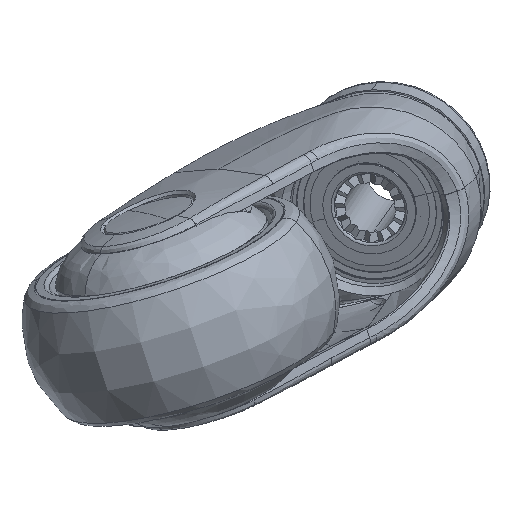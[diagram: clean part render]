
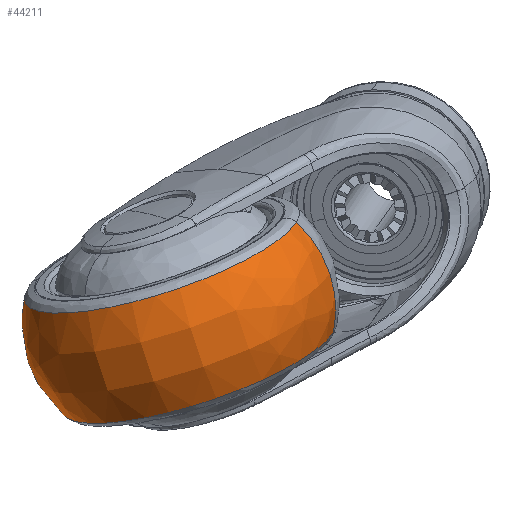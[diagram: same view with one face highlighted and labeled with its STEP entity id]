
A CAD part, left-side view. The second image highlights one B-rep face of the part: STEP entity #44211.
In plain terms, the highlighted free-form (B-spline) face has degree [3, 3] with [4, 4] control points.
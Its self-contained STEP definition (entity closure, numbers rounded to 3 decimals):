
#5 = CARTESIAN_POINT ( 'NONE',  ( -35.062, 37.561, -57.289 ) ) ;
#1368 = DIRECTION ( 'NONE',  ( 0.249, -0.308, -0.918 ) ) ;
#1640 = CIRCLE ( 'NONE', #10783, 28. ) ;
#1993 = EDGE_LOOP ( 'NONE', ( #37739, #47881, #37133, #46648 ) ) ;
#4279 = CARTESIAN_POINT ( 'NONE',  ( 7.626, -39.23, -19.971 ) ) ;
#5131 = CARTESIAN_POINT ( 'NONE',  ( -42.047, 46.173, -31.578 ) ) ;
#5209 = DIRECTION ( 'NONE',  ( 0.924, -0.21, 0.321 ) ) ;
#5852 = CARTESIAN_POINT ( 'NONE',  ( 20.293, 32.031, -9.905 ) ) ;
#6212 = AXIS2_PLACEMENT_3D ( 'NONE', #15802, #43878, #39440 ) ;
#6305 = CARTESIAN_POINT ( 'NONE',  ( 11.193, -12.417, -12.736 ) ) ;
#7547 = AXIS2_PLACEMENT_3D ( 'NONE', #25614, #1368, #13571 ) ;
#7761 = CARTESIAN_POINT ( 'NONE',  ( 0.641, -30.618, 5.74 ) ) ;
#8513 = CARTESIAN_POINT ( 'NONE',  ( -67.885, -24.967, -35.597 ) ) ;
#9268 = CARTESIAN_POINT ( 'NONE',  ( 16.725, 5.218, -17.14 ) ) ;
#9584 = VERTEX_POINT ( 'NONE', #7761 ) ;
#10336 = CIRCLE ( 'NONE', #6212, 33.749 ) ;
#10783 = AXIS2_PLACEMENT_3D ( 'NONE', #6305, #34642, #38223 ) ;
#12577 = CARTESIAN_POINT ( 'NONE',  ( 23.999, 34.057, -19.243 ) ) ;
#13571 = DIRECTION ( 'NONE',  ( -0.291, -0.928, 0.232 ) ) ;
#13614 = CARTESIAN_POINT ( 'NONE',  ( 27.277, 23.419, -35.616 ) ) ;
#14211 = EDGE_CURVE ( 'NONE', #27920, #27969, #51853, .T. ) ;
#15454 = CIRCLE ( 'NONE', #7547, 33.749 ) ;
#15774 = AXIS2_PLACEMENT_3D ( 'NONE', #9268, #5209, #17220 ) ;
#15802 = CARTESIAN_POINT ( 'NONE',  ( 17.452, -7.905, -27.793 ) ) ;
#17147 = CARTESIAN_POINT ( 'NONE',  ( 26.555, 30.905, -28.654 ) ) ;
#17220 = DIRECTION ( 'NONE',  ( 0.291, 0.928, -0.232 ) ) ;
#17316 = CARTESIAN_POINT ( 'NONE',  ( -61.698, -16.476, -15.933 ) ) ;
#20854 = CARTESIAN_POINT ( 'NONE',  ( 3.92, -41.257, -10.633 ) ) ;
#22766 = VERTEX_POINT ( 'NONE', #27283 ) ;
#24595 = CARTESIAN_POINT ( 'NONE',  ( 1.363, -38.104, -1.222 ) ) ;
#24955 = CARTESIAN_POINT ( 'NONE',  ( 20.293, 32.031, -9.905 ) ) ;
#25614 = CARTESIAN_POINT ( 'NONE',  ( 10.467, 0.706, -2.083 ) ) ;
#27283 = CARTESIAN_POINT ( 'NONE',  ( 7.626, -39.23, -19.971 ) ) ;
#27920 = VERTEX_POINT ( 'NONE', #13614 ) ;
#27969 = VERTEX_POINT ( 'NONE', #5852 ) ;
#28865 = CARTESIAN_POINT ( 'NONE',  ( 27.277, 23.419, -35.616 ) ) ;
#29281 = EDGE_CURVE ( 'NONE', #22766, #9584, #1640, .T. ) ;
#29378 = CARTESIAN_POINT ( 'NONE',  ( -47.806, 50.347, -44.207 ) ) ;
#32951 = CARTESIAN_POINT ( 'NONE',  ( -70.442, -21.815, -26.186 ) ) ;
#33086 =( BOUNDED_SURFACE ( )  B_SPLINE_SURFACE ( 3, 3, ( 
 ( #4279, #44871, #5, #28865 ),
 ( #20854, #8513, #33307, #17147 ),
 ( #24595, #32951, #29378, #12577 ),
 ( #49482, #17316, #5131, #24955 ) ),
 .UNSPECIFIED., .F., .F., .F. ) 
 B_SPLINE_SURFACE_WITH_KNOTS ( ( 4, 4 ),
 ( 4, 4 ),
 ( 0., 1. ),
 ( 0., 1. ),
 .UNSPECIFIED. ) 
 GEOMETRIC_REPRESENTATION_ITEM ( )  RATIONAL_B_SPLINE_SURFACE ( (
 ( 1., 0.333, 0.333, 1.),
 ( 0.911, 0.304, 0.304, 0.911),
 ( 0.911, 0.304, 0.304, 0.911),
 ( 1., 0.333, 0.333, 1.) ) ) 
 REPRESENTATION_ITEM ( '' )  SURFACE ( )  );
#33307 = CARTESIAN_POINT ( 'NONE',  ( -45.25, 47.195, -53.617 ) ) ;
#34440 = EDGE_CURVE ( 'NONE', #9584, #27969, #15454, .T. ) ;
#34642 = DIRECTION ( 'NONE',  ( -0.924, 0.21, -0.321 ) ) ;
#36543 = EDGE_CURVE ( 'NONE', #27920, #22766, #10336, .T. ) ;
#37133 = ORIENTED_EDGE ( 'NONE', *, *, #29281, .T. ) ;
#37739 = ORIENTED_EDGE ( 'NONE', *, *, #14211, .F. ) ;
#38223 = DIRECTION ( 'NONE',  ( -0.291, -0.928, 0.232 ) ) ;
#39440 = DIRECTION ( 'NONE',  ( -0.291, -0.928, 0.232 ) ) ;
#43878 = DIRECTION ( 'NONE',  ( -0.249, 0.308, 0.918 ) ) ;
#44211 = ADVANCED_FACE ( 'NONE', ( #48280 ), #33086, .T. ) ;
#44871 = CARTESIAN_POINT ( 'NONE',  ( -54.714, -25.088, -41.644 ) ) ;
#46648 = ORIENTED_EDGE ( 'NONE', *, *, #34440, .T. ) ;
#47881 = ORIENTED_EDGE ( 'NONE', *, *, #36543, .T. ) ;
#48280 = FACE_OUTER_BOUND ( 'NONE', #1993, .T. ) ;
#49482 = CARTESIAN_POINT ( 'NONE',  ( 0.641, -30.618, 5.74 ) ) ;
#51853 = CIRCLE ( 'NONE', #15774, 28. ) ;
